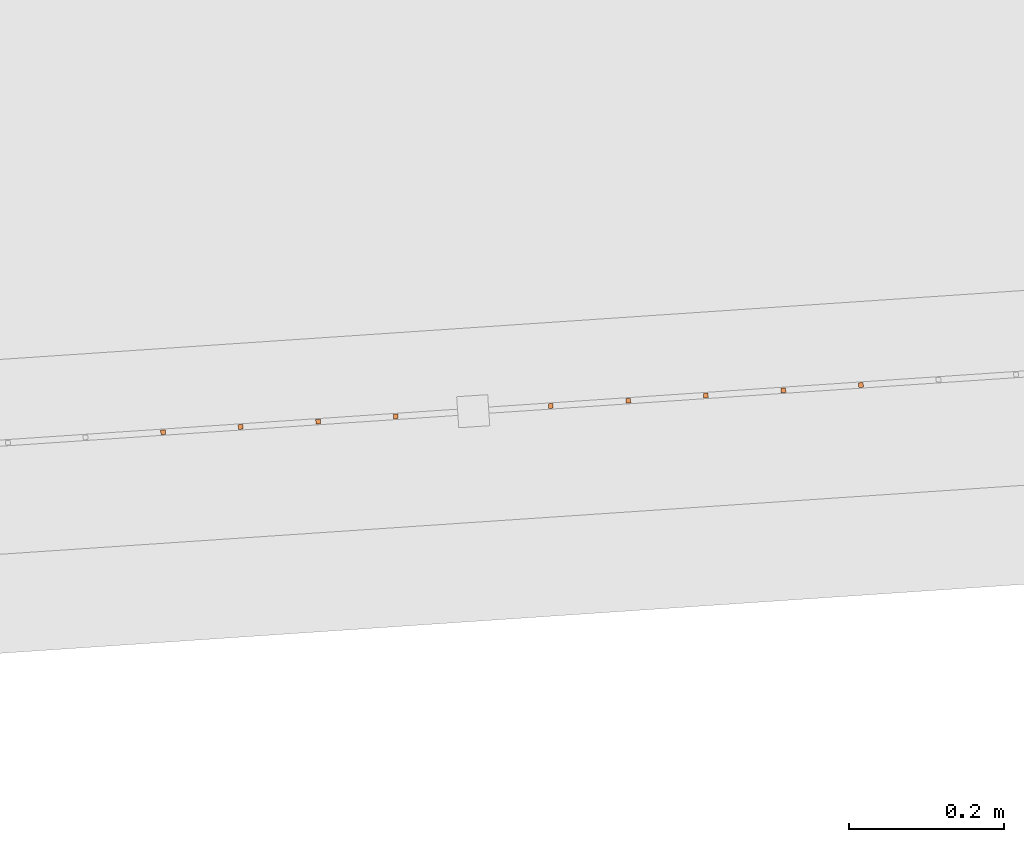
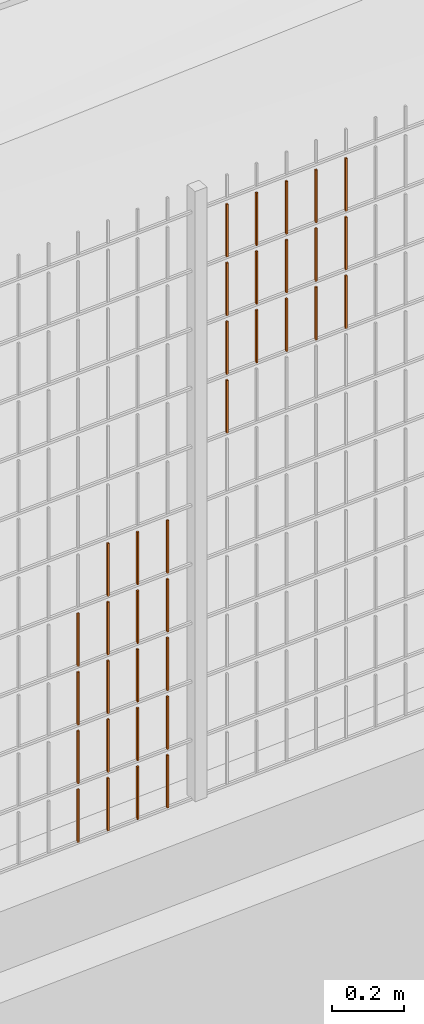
# One storey, part 299 of 1809: 35 proxies, 1 element without a shape of its own.
"""IFC2X3 building model written with IfcOpenShell, lengths in millimetres."""

from ifc_helpers import new_model, entity, si_unit, converted_unit, derived_unit, money_unit, direction, frame, origin_with_axes, place, context, subcontext, project, spatial, faceted_brep, source, transform, mapped, material, type_object, element, aggregate, save


model = new_model("IFC2X3")

# Units and contexts
model_context = context("Model", 3, precision=0.01, world=origin_with_axes(), true_north=direction((0.0, 1.0)))
body_context = subcontext(model_context, "Body", "Model", "MODEL_VIEW")
ifc_project = project(units=[si_unit("LENGTHUNIT", "METRE", prefix="MILLI"), si_unit("AREAUNIT", "SQUARE_METRE"), si_unit("VOLUMEUNIT", "CUBIC_METRE"), converted_unit("PLANEANGLEUNIT", "DEGREE", entity("IfcPlaneAngleMeasure", 0.0174532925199), si_unit("PLANEANGLEUNIT", "RADIAN"), dimensions=[0, 0, 0, 0, 0, 0, 0]), si_unit("SOLIDANGLEUNIT", "STERADIAN"), money_unit("EUR"), converted_unit("TIMEUNIT", "Year", entity("IfcTimeMeasure", 31556926.0), si_unit("TIMEUNIT", "SECOND"), dimensions=[0, 0, 1, 0, 0, 0, 0]), si_unit("MASSUNIT", "GRAM", prefix="KILO"), si_unit("THERMODYNAMICTEMPERATUREUNIT", "DEGREE_CELSIUS"), si_unit("LUMINOUSINTENSITYUNIT", "LUMEN"), si_unit("ENERGYUNIT", "JOULE", prefix="MEGA"), derived_unit("THERMALCONDUCTANCEUNIT", [(si_unit("POWERUNIT", "WATT"), 1), (si_unit("LENGTHUNIT", "METRE"), -1), (si_unit("THERMODYNAMICTEMPERATUREUNIT", "KELVIN"), -1)]), derived_unit("SPECIFICHEATCAPACITYUNIT", [(si_unit("ENERGYUNIT", "JOULE"), 1), (si_unit("MASSUNIT", "GRAM", prefix="KILO"), -1), (si_unit("THERMODYNAMICTEMPERATUREUNIT", "KELVIN"), -1)]), derived_unit("MASSDENSITYUNIT", [(si_unit("MASSUNIT", "GRAM", prefix="KILO"), 1), (si_unit("VOLUMEUNIT", "CUBIC_METRE"), -1)])], contexts=[model_context])

# Site, building, storey
site_placement = place(None, origin_with_axes())
site = spatial("IfcSite", under=ifc_project, at=site_placement, Name="Politse- ja Piirivalveameti ning Päästeameti ühishoone", CompositionType="ELEMENT")
building_placement = place(site_placement, origin_with_axes())
building = spatial("IfcBuilding", under=site, at=building_placement, Name="Politse- ja Piirivalveameti ning Päästeameti ühishoone", CompositionType="ELEMENT")
storey_placement = place(building_placement, origin_with_axes())
storey = spatial("IfcBuildingStorey", under=building, at=storey_placement, Name="Esimene korrus", CompositionType="ELEMENT", Elevation=0.0)

# Proxies
building_element_proxy_type_1 = type_object("IfcBuildingElementProxyType", Name="Railing Type", PredefinedType="NOTDEFINED")
proxy_1_placement = place(storey_placement, frame((89252.001212, -29183.4766571, 203.661247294), z_axis=(0.0, 0.0, 1.0), x_axis=(1.0, 0.0, 0.0)))
proxy_1 = element("IfcBuildingElementProxy", 1, at=proxy_1_placement, inside=storey, type_object=building_element_proxy_type_1, Name="PIIRDEAED")
ifc_material = material(Name="ET-03_Raud")
building_element_proxy_type_2 = type_object("IfcBuildingElementProxyType", Name="IfcBuildingElementProxy", PredefinedType="NOTDEFINED")
shared_shape_1 = source(origin_with_axes(), body_context, "Body", "Brep", [
    faceted_brep([(3.0, 3.0, -0.000752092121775), (-3.0, 3.0, -0.000752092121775), (-3.0, 3.0, 179.99926046), (3.0, 3.0, 179.99926046), (3.0, -3.0, 0.000752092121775), (-3.0, -3.0, 0.000752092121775), (-3.0, -3.0, 180.000764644), (3.0, -3.0, 180.000764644)], [[[0, 1, 2, 3]], [[0, 4, 5, 1]], [[1, 5, 6, 2]], [[3, 2, 6, 7]], [[4, 0, 3, 7]], [[5, 4, 7, 6]]]),
])
proxy_2_placement = place(proxy_1_placement, frame((-44924.3211557, -20332.2431174, 15.94631308), z_axis=(0.0, 0.0, 1.0), x_axis=(1.0, 0.0, 0.0)))
proxy_2 = element("IfcBuildingElementProxy", 2, at=proxy_2_placement, type_object=building_element_proxy_type_2, material=ifc_material, Name="BALUSTER - 001", context=body_context, shape_type="MappedRepresentation", body=[
    mapped(shared_shape_1, transform((0.0, 0.0, 0.0), x_axis=(-0.0673926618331, 0.997726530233, 0.0), y_axis=(-0.997726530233, -0.0673926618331, 0.0), z_axis=(0.0, 0.0, 1.0))),
])
shared_shape_2 = source(origin_with_axes(), body_context, "Body", "Brep", [
    faceted_brep([(3.0, 3.0, -0.000752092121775), (-3.0, 3.0, -0.000752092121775), (-3.0, 3.0, 179.99926046), (3.0, 3.0, 179.99926046), (3.0, -3.0, 0.000752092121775), (-3.0, -3.0, 0.000752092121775), (-3.0, -3.0, 180.000764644), (3.0, -3.0, 180.000764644)], [[[0, 1, 2, 3]], [[0, 4, 5, 1]], [[1, 5, 6, 2]], [[3, 2, 6, 7]], [[4, 0, 3, 7]], [[5, 4, 7, 6]]]),
])
proxy_3_placement = place(proxy_1_placement, frame((-44924.3211557, -20332.2431174, 215.94631308), z_axis=(0.0, 0.0, 1.0), x_axis=(1.0, 0.0, 0.0)))
proxy_3 = element("IfcBuildingElementProxy", 3, at=proxy_3_placement, type_object=building_element_proxy_type_2, material=ifc_material, Name="BALUSTER - 001", context=body_context, shape_type="MappedRepresentation", body=[
    mapped(shared_shape_2, transform((0.0, 0.0, 0.0), x_axis=(-0.0673926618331, 0.997726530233, 0.0), y_axis=(-0.997726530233, -0.0673926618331, 0.0), z_axis=(0.0, 0.0, 1.0))),
])
proxy_4_placement = place(proxy_1_placement, frame((-44924.3211557, -20332.2431174, 415.94631308), z_axis=(0.0, 0.0, 1.0), x_axis=(1.0, 0.0, 0.0)))
proxy_4 = element("IfcBuildingElementProxy", 4, at=proxy_4_placement, type_object=building_element_proxy_type_2, material=ifc_material, Name="BALUSTER - 001", context=body_context, shape_type="MappedRepresentation", body=[
    mapped(shared_shape_2, transform((0.0, 0.0, 0.0), x_axis=(-0.0673926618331, 0.997726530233, 0.0), y_axis=(-0.997726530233, -0.0673926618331, 0.0), z_axis=(0.0, 0.0, 1.0))),
])
shared_shape_3 = source(origin_with_axes(), body_context, "Body", "Brep", [
    faceted_brep([(3.0, 3.0, -0.000752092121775), (-3.0, 3.0, -0.000752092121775), (-3.0, 3.0, 179.99926046), (3.0, 3.0, 179.99926046), (3.0, -3.0, 0.000752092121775), (-3.0, -3.0, 0.000752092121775), (-3.0, -3.0, 180.000764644), (3.0, -3.0, 180.000764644)], [[[0, 1, 2, 3]], [[0, 4, 5, 1]], [[1, 5, 6, 2]], [[3, 2, 6, 7]], [[4, 0, 3, 7]], [[5, 4, 7, 6]]]),
])
proxy_5_placement = place(proxy_1_placement, frame((-44924.3211557, -20332.2431174, 615.94631308), z_axis=(0.0, 0.0, 1.0), x_axis=(1.0, 0.0, 0.0)))
proxy_5 = element("IfcBuildingElementProxy", 5, at=proxy_5_placement, type_object=building_element_proxy_type_2, material=ifc_material, Name="BALUSTER - 001", context=body_context, shape_type="MappedRepresentation", body=[
    mapped(shared_shape_3, transform((0.0, 0.0, 0.0), x_axis=(-0.0673926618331, 0.997726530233, 0.0), y_axis=(-0.997726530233, -0.0673926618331, 0.0), z_axis=(0.0, 0.0, 1.0))),
])
shared_shape_4 = source(origin_with_axes(), body_context, "Body", "Brep", [
    faceted_brep([(3.0, 3.0, -0.000752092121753), (-3.0, 3.0, -0.000752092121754), (-3.0, 3.0, 179.99926046), (3.0, 3.0, 179.99926046), (3.0, -3.0, 0.000752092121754), (-3.0, -3.0, 0.000752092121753), (-3.0, -3.0, 180.000764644), (3.0, -3.0, 180.000764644)], [[[0, 1, 2, 3]], [[0, 4, 5, 1]], [[1, 5, 6, 2]], [[3, 2, 6, 7]], [[4, 0, 3, 7]], [[5, 4, 7, 6]]]),
])
proxy_6_placement = place(proxy_1_placement, frame((-44225.9125845, -20285.0682541, 1816.12180124), z_axis=(0.0, 0.0, 1.0), x_axis=(1.0, 0.0, 0.0)))
proxy_6 = element("IfcBuildingElementProxy", 6, at=proxy_6_placement, type_object=building_element_proxy_type_2, material=ifc_material, Name="BALUSTER - 001", context=body_context, shape_type="MappedRepresentation", body=[
    mapped(shared_shape_4, transform((0.0, 0.0, 0.0), x_axis=(-0.0673926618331, 0.997726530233, 0.0), y_axis=(-0.997726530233, -0.0673926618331, 0.0), z_axis=(0.0, 0.0, 1.0))),
])
shared_shape_5 = source(origin_with_axes(), body_context, "Body", "Brep", [
    faceted_brep([(3.0, 3.0, -0.000752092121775), (-3.0, 3.0, -0.000752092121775), (-3.0, 3.0, 179.99926046), (3.0, 3.0, 179.99926046), (3.0, -3.0, 0.000752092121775), (-3.0, -3.0, 0.000752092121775), (-3.0, -3.0, 180.000764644), (3.0, -3.0, 180.000764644)], [[[0, 1, 2, 3]], [[0, 4, 5, 1]], [[1, 5, 6, 2]], [[3, 2, 6, 7]], [[4, 0, 3, 7]], [[5, 4, 7, 6]]]),
])
proxy_7_placement = place(proxy_1_placement, frame((-44924.3211557, -20332.2431174, 815.94631308), z_axis=(0.0, 0.0, 1.0), x_axis=(1.0, 0.0, 0.0)))
proxy_7 = element("IfcBuildingElementProxy", 7, at=proxy_7_placement, type_object=building_element_proxy_type_2, material=ifc_material, Name="BALUSTER - 001", context=body_context, shape_type="MappedRepresentation", body=[
    mapped(shared_shape_5, transform((0.0, 0.0, 0.0), x_axis=(-0.0673926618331, 0.997726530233, 0.0), y_axis=(-0.997726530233, -0.0673926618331, 0.0), z_axis=(0.0, 0.0, 1.0))),
])
shared_shape_6 = source(origin_with_axes(), body_context, "Body", "Brep", [
    faceted_brep([(3.0, 3.0, -0.000752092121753), (-3.0, 3.0, -0.000752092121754), (-3.0, 3.0, 179.99926046), (3.0, 3.0, 179.99926046), (3.0, -3.0, 0.000752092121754), (-3.0, -3.0, 0.000752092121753), (-3.0, -3.0, 180.000764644), (3.0, -3.0, 180.000764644)], [[[0, 1, 2, 3]], [[0, 4, 5, 1]], [[1, 5, 6, 2]], [[3, 2, 6, 7]], [[4, 0, 3, 7]], [[5, 4, 7, 6]]]),
])
proxy_8_placement = place(proxy_1_placement, frame((-44225.9125845, -20285.0682541, 1416.12180124), z_axis=(0.0, 0.0, 1.0), x_axis=(1.0, 0.0, 0.0)))
proxy_8 = element("IfcBuildingElementProxy", 8, at=proxy_8_placement, type_object=building_element_proxy_type_2, material=ifc_material, Name="BALUSTER - 001", context=body_context, shape_type="MappedRepresentation", body=[
    mapped(shared_shape_6, transform((0.0, 0.0, 0.0), x_axis=(-0.0673926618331, 0.997726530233, 0.0), y_axis=(-0.997726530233, -0.0673926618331, 0.0), z_axis=(0.0, 0.0, 1.0))),
])
proxy_9_placement = place(proxy_1_placement, frame((-44225.9125845, -20285.0682541, 1616.12180124), z_axis=(0.0, 0.0, 1.0), x_axis=(1.0, 0.0, 0.0)))
proxy_9 = element("IfcBuildingElementProxy", 9, at=proxy_9_placement, type_object=building_element_proxy_type_2, material=ifc_material, Name="BALUSTER - 001", context=body_context, shape_type="MappedRepresentation", body=[
    mapped(shared_shape_6, transform((0.0, 0.0, 0.0), x_axis=(-0.0673926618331, 0.997726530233, 0.0), y_axis=(-0.997726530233, -0.0673926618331, 0.0), z_axis=(0.0, 0.0, 1.0))),
])
shared_shape_7 = source(origin_with_axes(), body_context, "Body", "Brep", [
    faceted_brep([(3.0, 3.0, -0.000752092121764), (-3.0, 3.0, -0.000752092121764), (-3.0, 3.0, 179.99926046), (3.0, 3.0, 179.99926046), (3.0, -3.0, 0.000752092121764), (-3.0, -3.0, 0.000752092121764), (-3.0, -3.0, 180.000764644), (3.0, -3.0, 180.000764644)], [[[0, 1, 2, 3]], [[0, 4, 5, 1]], [[1, 5, 6, 2]], [[3, 2, 6, 7]], [[4, 0, 3, 7]], [[5, 4, 7, 6]]]),
])
proxy_10_placement = place(proxy_1_placement, frame((-44425.4578906, -20298.5467865, 1816.07166177), z_axis=(0.0, 0.0, 1.0), x_axis=(1.0, 0.0, 0.0)))
proxy_10 = element("IfcBuildingElementProxy", 10, at=proxy_10_placement, type_object=building_element_proxy_type_2, material=ifc_material, Name="BALUSTER - 001", context=body_context, shape_type="MappedRepresentation", body=[
    mapped(shared_shape_7, transform((0.0, 0.0, 0.0), x_axis=(-0.0673926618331, 0.997726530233, 0.0), y_axis=(-0.997726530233, -0.0673926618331, 0.0), z_axis=(0.0, 0.0, 1.0))),
])
shared_shape_8 = source(origin_with_axes(), body_context, "Body", "Brep", [
    faceted_brep([(3.0, 3.0, -0.000752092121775), (-3.0, 3.0, -0.000752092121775), (-3.0, 3.0, 179.99926046), (3.0, 3.0, 179.99926046), (3.0, -3.0, 0.000752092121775), (-3.0, -3.0, 0.000752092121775), (-3.0, -3.0, 180.000764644), (3.0, -3.0, 180.000764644)], [[[0, 1, 2, 3]], [[0, 4, 5, 1]], [[1, 5, 6, 2]], [[3, 2, 6, 7]], [[4, 0, 3, 7]], [[5, 4, 7, 6]]]),
])
proxy_11_placement = place(proxy_1_placement, frame((-44824.5485026, -20325.5038512, 15.9713828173), z_axis=(0.0, 0.0, 1.0), x_axis=(1.0, 0.0, 0.0)))
proxy_11 = element("IfcBuildingElementProxy", 11, at=proxy_11_placement, type_object=building_element_proxy_type_2, material=ifc_material, Name="BALUSTER - 001", context=body_context, shape_type="MappedRepresentation", body=[
    mapped(shared_shape_8, transform((0.0, 0.0, 0.0), x_axis=(-0.0673926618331, 0.997726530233, 0.0), y_axis=(-0.997726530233, -0.0673926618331, 0.0), z_axis=(0.0, 0.0, 1.0))),
])
shared_shape_9 = source(origin_with_axes(), body_context, "Body", "Brep", [
    faceted_brep([(3.0, 3.0, -0.000752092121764), (-3.0, 3.0, -0.000752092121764), (-3.0, 3.0, 179.99926046), (3.0, 3.0, 179.99926046), (3.0, -3.0, 0.000752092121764), (-3.0, -3.0, 0.000752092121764), (-3.0, -3.0, 180.000764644), (3.0, -3.0, 180.000764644)], [[[0, 1, 2, 3]], [[0, 4, 5, 1]], [[1, 5, 6, 2]], [[3, 2, 6, 7]], [[4, 0, 3, 7]], [[5, 4, 7, 6]]]),
])
proxy_12_placement = place(proxy_1_placement, frame((-44425.4578906, -20298.5467865, 1416.07166177), z_axis=(0.0, 0.0, 1.0), x_axis=(1.0, 0.0, 0.0)))
proxy_12 = element("IfcBuildingElementProxy", 12, at=proxy_12_placement, type_object=building_element_proxy_type_2, material=ifc_material, Name="BALUSTER - 001", context=body_context, shape_type="MappedRepresentation", body=[
    mapped(shared_shape_9, transform((0.0, 0.0, 0.0), x_axis=(-0.0673926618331, 0.997726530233, 0.0), y_axis=(-0.997726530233, -0.0673926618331, 0.0), z_axis=(0.0, 0.0, 1.0))),
])
proxy_13_placement = place(proxy_1_placement, frame((-44425.4578906, -20298.5467865, 1616.07166177), z_axis=(0.0, 0.0, 1.0), x_axis=(1.0, 0.0, 0.0)))
proxy_13 = element("IfcBuildingElementProxy", 13, at=proxy_13_placement, type_object=building_element_proxy_type_2, material=ifc_material, Name="BALUSTER - 001", context=body_context, shape_type="MappedRepresentation", body=[
    mapped(shared_shape_9, transform((0.0, 0.0, 0.0), x_axis=(-0.0673926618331, 0.997726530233, 0.0), y_axis=(-0.997726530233, -0.0673926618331, 0.0), z_axis=(0.0, 0.0, 1.0))),
])
shared_shape_10 = source(origin_with_axes(), body_context, "Body", "Brep", [
    faceted_brep([(3.0, 3.0, -0.000752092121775), (-3.0, 3.0, -0.000752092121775), (-3.0, 3.0, 179.99926046), (3.0, 3.0, 179.99926046), (3.0, -3.0, 0.000752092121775), (-3.0, -3.0, 0.000752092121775), (-3.0, -3.0, 180.000764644), (3.0, -3.0, 180.000764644)], [[[0, 1, 2, 3]], [[0, 4, 5, 1]], [[1, 5, 6, 2]], [[3, 2, 6, 7]], [[4, 0, 3, 7]], [[5, 4, 7, 6]]]),
])
proxy_14_placement = place(proxy_1_placement, frame((-44824.5485026, -20325.5038512, 215.971382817), z_axis=(0.0, 0.0, 1.0), x_axis=(1.0, 0.0, 0.0)))
proxy_14 = element("IfcBuildingElementProxy", 14, at=proxy_14_placement, type_object=building_element_proxy_type_2, material=ifc_material, Name="BALUSTER - 001", context=body_context, shape_type="MappedRepresentation", body=[
    mapped(shared_shape_10, transform((0.0, 0.0, 0.0), x_axis=(-0.0673926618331, 0.997726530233, 0.0), y_axis=(-0.997726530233, -0.0673926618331, 0.0), z_axis=(0.0, 0.0, 1.0))),
])
shared_shape_11 = source(origin_with_axes(), body_context, "Body", "Brep", [
    faceted_brep([(3.0, 3.0, -0.000752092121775), (-3.0, 3.0, -0.000752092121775), (-3.0, 3.0, 179.99926046), (3.0, 3.0, 179.99926046), (3.0, -3.0, 0.000752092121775), (-3.0, -3.0, 0.000752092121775), (-3.0, -3.0, 180.000764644), (3.0, -3.0, 180.000764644)], [[[0, 1, 2, 3]], [[0, 4, 5, 1]], [[1, 5, 6, 2]], [[3, 2, 6, 7]], [[4, 0, 3, 7]], [[5, 4, 7, 6]]]),
])
proxy_15_placement = place(proxy_1_placement, frame((-44824.5485026, -20325.5038512, 415.971382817), z_axis=(0.0, 0.0, 1.0), x_axis=(1.0, 0.0, 0.0)))
proxy_15 = element("IfcBuildingElementProxy", 15, at=proxy_15_placement, type_object=building_element_proxy_type_2, material=ifc_material, Name="BALUSTER - 001", context=body_context, shape_type="MappedRepresentation", body=[
    mapped(shared_shape_11, transform((0.0, 0.0, 0.0), x_axis=(-0.0673926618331, 0.997726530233, 0.0), y_axis=(-0.997726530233, -0.0673926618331, 0.0), z_axis=(0.0, 0.0, 1.0))),
])
shared_shape_12 = source(origin_with_axes(), body_context, "Body", "Brep", [
    faceted_brep([(3.0, 3.0, -0.000752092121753), (-3.0, 3.0, -0.000752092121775), (-3.0, 3.0, 179.99926046), (3.0, 3.0, 179.99926046), (3.0, -3.0, 0.000752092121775), (-3.0, -3.0, 0.000752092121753), (-3.0, -3.0, 180.000764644), (3.0, -3.0, 180.000764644)], [[[0, 1, 2, 3]], [[0, 4, 5, 1]], [[1, 5, 6, 2]], [[3, 2, 6, 7]], [[4, 0, 3, 7]], [[5, 4, 7, 6]]]),
])
proxy_16_placement = place(proxy_1_placement, frame((-44525.2305436, -20305.2860527, 1816.04659203), z_axis=(0.0, 0.0, 1.0), x_axis=(1.0, 0.0, 0.0)))
proxy_16 = element("IfcBuildingElementProxy", 16, at=proxy_16_placement, type_object=building_element_proxy_type_2, material=ifc_material, Name="BALUSTER - 001", context=body_context, shape_type="MappedRepresentation", body=[
    mapped(shared_shape_12, transform((0.0, 0.0, 0.0), x_axis=(-0.0673926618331, 0.997726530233, 0.0), y_axis=(-0.997726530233, -0.0673926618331, 0.0), z_axis=(0.0, 0.0, 1.0))),
])
shared_shape_13 = source(origin_with_axes(), body_context, "Body", "Brep", [
    faceted_brep([(3.0, 3.0, -0.000752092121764), (-3.0, 3.0, -0.000752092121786), (-3.0, 3.0, 179.99926046), (3.0, 3.0, 179.99926046), (3.0, -3.0, 0.000752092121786), (-3.0, -3.0, 0.000752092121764), (-3.0, -3.0, 180.000764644), (3.0, -3.0, 180.000764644)], [[[0, 1, 2, 3]], [[0, 4, 5, 1]], [[1, 5, 6, 2]], [[3, 2, 6, 7]], [[4, 0, 3, 7]], [[5, 4, 7, 6]]]),
])
proxy_17_placement = place(proxy_1_placement, frame((-44625.0031966, -20312.0253189, 1816.02152229), z_axis=(0.0, 0.0, 1.0), x_axis=(1.0, 0.0, 0.0)))
proxy_17 = element("IfcBuildingElementProxy", 17, at=proxy_17_placement, type_object=building_element_proxy_type_2, material=ifc_material, Name="BALUSTER - 001", context=body_context, shape_type="MappedRepresentation", body=[
    mapped(shared_shape_13, transform((0.0, 0.0, 0.0), x_axis=(-0.0673926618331, 0.997726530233, 0.0), y_axis=(-0.997726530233, -0.0673926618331, 0.0), z_axis=(0.0, 0.0, 1.0))),
])
shared_shape_14 = source(origin_with_axes(), body_context, "Body", "Brep", [
    faceted_brep([(3.0, 3.0, -0.000752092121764), (-3.0, 3.0, -0.000752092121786), (-3.0, 3.0, 179.99926046), (3.0, 3.0, 179.99926046), (3.0, -3.0, 0.000752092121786), (-3.0, -3.0, 0.000752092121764), (-3.0, -3.0, 180.000764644), (3.0, -3.0, 180.000764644)], [[[0, 1, 2, 3]], [[0, 4, 5, 1]], [[1, 5, 6, 2]], [[3, 2, 6, 7]], [[4, 0, 3, 7]], [[5, 4, 7, 6]]]),
])
proxy_18_placement = place(proxy_1_placement, frame((-44625.0031966, -20312.0253189, 1216.02152229), z_axis=(0.0, 0.0, 1.0), x_axis=(1.0, 0.0, 0.0)))
proxy_18 = element("IfcBuildingElementProxy", 18, at=proxy_18_placement, type_object=building_element_proxy_type_2, material=ifc_material, Name="BALUSTER - 001", context=body_context, shape_type="MappedRepresentation", body=[
    mapped(shared_shape_14, transform((0.0, 0.0, 0.0), x_axis=(-0.0673926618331, 0.997726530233, 0.0), y_axis=(-0.997726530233, -0.0673926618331, 0.0), z_axis=(0.0, 0.0, 1.0))),
])
shared_shape_15 = source(origin_with_axes(), body_context, "Body", "Brep", [
    faceted_brep([(3.0, 3.0, -0.000752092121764), (-3.0, 3.0, -0.000752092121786), (-3.0, 3.0, 179.99926046), (3.0, 3.0, 179.99926046), (3.0, -3.0, 0.000752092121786), (-3.0, -3.0, 0.000752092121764), (-3.0, -3.0, 180.000764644), (3.0, -3.0, 180.000764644)], [[[0, 1, 2, 3]], [[0, 4, 5, 1]], [[1, 5, 6, 2]], [[3, 2, 6, 7]], [[4, 0, 3, 7]], [[5, 4, 7, 6]]]),
])
proxy_19_placement = place(proxy_1_placement, frame((-44625.0031966, -20312.0253189, 1416.02152229), z_axis=(0.0, 0.0, 1.0), x_axis=(1.0, 0.0, 0.0)))
proxy_19 = element("IfcBuildingElementProxy", 19, at=proxy_19_placement, type_object=building_element_proxy_type_2, material=ifc_material, Name="BALUSTER - 001", context=body_context, shape_type="MappedRepresentation", body=[
    mapped(shared_shape_15, transform((0.0, 0.0, 0.0), x_axis=(-0.0673926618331, 0.997726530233, 0.0), y_axis=(-0.997726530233, -0.0673926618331, 0.0), z_axis=(0.0, 0.0, 1.0))),
])
proxy_20_placement = place(proxy_1_placement, frame((-44625.0031966, -20312.0253189, 1616.02152229), z_axis=(0.0, 0.0, 1.0), x_axis=(1.0, 0.0, 0.0)))
proxy_20 = element("IfcBuildingElementProxy", 20, at=proxy_20_placement, type_object=building_element_proxy_type_2, material=ifc_material, Name="BALUSTER - 001", context=body_context, shape_type="MappedRepresentation", body=[
    mapped(shared_shape_15, transform((0.0, 0.0, 0.0), x_axis=(-0.0673926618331, 0.997726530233, 0.0), y_axis=(-0.997726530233, -0.0673926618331, 0.0), z_axis=(0.0, 0.0, 1.0))),
])
shared_shape_16 = source(origin_with_axes(), body_context, "Body", "Brep", [
    faceted_brep([(3.0, 3.0, -0.000752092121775), (-3.0, 3.0, -0.000752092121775), (-3.0, 3.0, 179.99926046), (3.0, 3.0, 179.99926046), (3.0, -3.0, 0.000752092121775), (-3.0, -3.0, 0.000752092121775), (-3.0, -3.0, 180.000764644), (3.0, -3.0, 180.000764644)], [[[0, 1, 2, 3]], [[0, 4, 5, 1]], [[1, 5, 6, 2]], [[3, 2, 6, 7]], [[4, 0, 3, 7]], [[5, 4, 7, 6]]]),
])
proxy_21_placement = place(proxy_1_placement, frame((-44824.5485026, -20325.5038512, 815.971382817), z_axis=(0.0, 0.0, 1.0), x_axis=(1.0, 0.0, 0.0)))
proxy_21 = element("IfcBuildingElementProxy", 21, at=proxy_21_placement, type_object=building_element_proxy_type_2, material=ifc_material, Name="BALUSTER - 001", context=body_context, shape_type="MappedRepresentation", body=[
    mapped(shared_shape_16, transform((0.0, 0.0, 0.0), x_axis=(-0.0673926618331, 0.997726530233, 0.0), y_axis=(-0.997726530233, -0.0673926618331, 0.0), z_axis=(0.0, 0.0, 1.0))),
])
shared_shape_17 = source(origin_with_axes(), body_context, "Body", "Brep", [
    faceted_brep([(3.0, 3.0, -0.000752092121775), (-3.0, 3.0, -0.000752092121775), (-3.0, 3.0, 179.99926046), (3.0, 3.0, 179.99926046), (3.0, -3.0, 0.000752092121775), (-3.0, -3.0, 0.000752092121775), (-3.0, -3.0, 180.000764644), (3.0, -3.0, 180.000764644)], [[[0, 1, 2, 3]], [[0, 4, 5, 1]], [[1, 5, 6, 2]], [[3, 2, 6, 7]], [[4, 0, 3, 7]], [[5, 4, 7, 6]]]),
])
proxy_22_placement = place(proxy_1_placement, frame((-44824.5485026, -20325.5038512, 615.971382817), z_axis=(0.0, 0.0, 1.0), x_axis=(1.0, 0.0, 0.0)))
proxy_22 = element("IfcBuildingElementProxy", 22, at=proxy_22_placement, type_object=building_element_proxy_type_2, material=ifc_material, Name="BALUSTER - 001", context=body_context, shape_type="MappedRepresentation", body=[
    mapped(shared_shape_17, transform((0.0, 0.0, 0.0), x_axis=(-0.0673926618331, 0.997726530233, 0.0), y_axis=(-0.997726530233, -0.0673926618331, 0.0), z_axis=(0.0, 0.0, 1.0))),
])
shared_shape_18 = source(origin_with_axes(), body_context, "Body", "Brep", [
    faceted_brep([(3.0, 3.0, -0.000752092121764), (-3.0, 3.0, -0.000752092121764), (-3.0, 3.0, 179.99926046), (3.0, 3.0, 179.99926046), (3.0, -3.0, 0.000752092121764), (-3.0, -3.0, 0.000752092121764), (-3.0, -3.0, 180.000764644), (3.0, -3.0, 180.000764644)], [[[0, 1, 2, 3]], [[0, 4, 5, 1]], [[1, 5, 6, 2]], [[3, 2, 6, 7]], [[4, 0, 3, 7]], [[5, 4, 7, 6]]]),
])
proxy_23_placement = place(proxy_1_placement, frame((-45123.8664617, -20345.7216498, 15.8961736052), z_axis=(0.0, 0.0, 1.0), x_axis=(1.0, 0.0, 0.0)))
proxy_23 = element("IfcBuildingElementProxy", 23, at=proxy_23_placement, type_object=building_element_proxy_type_2, material=ifc_material, Name="BALUSTER - 001", context=body_context, shape_type="MappedRepresentation", body=[
    mapped(shared_shape_18, transform((0.0, 0.0, 0.0), x_axis=(-0.0673926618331, 0.997726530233, 0.0), y_axis=(-0.997726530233, -0.0673926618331, 0.0), z_axis=(0.0, 0.0, 1.0))),
])
shared_shape_19 = source(origin_with_axes(), body_context, "Body", "Brep", [
    faceted_brep([(3.0, 3.0, -0.000752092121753), (-3.0, 3.0, -0.000752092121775), (-3.0, 3.0, 179.99926046), (3.0, 3.0, 179.99926046), (3.0, -3.0, 0.000752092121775), (-3.0, -3.0, 0.000752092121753), (-3.0, -3.0, 180.000764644), (3.0, -3.0, 180.000764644)], [[[0, 1, 2, 3]], [[0, 4, 5, 1]], [[1, 5, 6, 2]], [[3, 2, 6, 7]], [[4, 0, 3, 7]], [[5, 4, 7, 6]]]),
])
proxy_24_placement = place(proxy_1_placement, frame((-45024.0938087, -20338.9823836, 415.921243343), z_axis=(0.0, 0.0, 1.0), x_axis=(1.0, 0.0, 0.0)))
proxy_24 = element("IfcBuildingElementProxy", 24, at=proxy_24_placement, type_object=building_element_proxy_type_2, material=ifc_material, Name="BALUSTER - 001", context=body_context, shape_type="MappedRepresentation", body=[
    mapped(shared_shape_19, transform((0.0, 0.0, 0.0), x_axis=(-0.0673926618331, 0.997726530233, 0.0), y_axis=(-0.997726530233, -0.0673926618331, 0.0), z_axis=(0.0, 0.0, 1.0))),
])
proxy_25_placement = place(proxy_1_placement, frame((-45024.0938087, -20338.9823836, 615.921243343), z_axis=(0.0, 0.0, 1.0), x_axis=(1.0, 0.0, 0.0)))
proxy_25 = element("IfcBuildingElementProxy", 25, at=proxy_25_placement, type_object=building_element_proxy_type_2, material=ifc_material, Name="BALUSTER - 001", context=body_context, shape_type="MappedRepresentation", body=[
    mapped(shared_shape_19, transform((0.0, 0.0, 0.0), x_axis=(-0.0673926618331, 0.997726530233, 0.0), y_axis=(-0.997726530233, -0.0673926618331, 0.0), z_axis=(0.0, 0.0, 1.0))),
])
shared_shape_20 = source(origin_with_axes(), body_context, "Body", "Brep", [
    faceted_brep([(3.0, 3.0, -0.000752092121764), (-3.0, 3.0, -0.000752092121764), (-3.0, 3.0, 179.99926046), (3.0, 3.0, 179.99926046), (3.0, -3.0, 0.000752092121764), (-3.0, -3.0, 0.000752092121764), (-3.0, -3.0, 180.000764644), (3.0, -3.0, 180.000764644)], [[[0, 1, 2, 3]], [[0, 4, 5, 1]], [[1, 5, 6, 2]], [[3, 2, 6, 7]], [[4, 0, 3, 7]], [[5, 4, 7, 6]]]),
])
proxy_26_placement = place(proxy_1_placement, frame((-45123.8664617, -20345.7216498, 215.896173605), z_axis=(0.0, 0.0, 1.0), x_axis=(1.0, 0.0, 0.0)))
proxy_26 = element("IfcBuildingElementProxy", 26, at=proxy_26_placement, type_object=building_element_proxy_type_2, material=ifc_material, Name="BALUSTER - 001", context=body_context, shape_type="MappedRepresentation", body=[
    mapped(shared_shape_20, transform((0.0, 0.0, 0.0), x_axis=(-0.0673926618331, 0.997726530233, 0.0), y_axis=(-0.997726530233, -0.0673926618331, 0.0), z_axis=(0.0, 0.0, 1.0))),
])
proxy_27_placement = place(proxy_1_placement, frame((-45123.8664617, -20345.7216498, 415.896173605), z_axis=(0.0, 0.0, 1.0), x_axis=(1.0, 0.0, 0.0)))
proxy_27 = element("IfcBuildingElementProxy", 27, at=proxy_27_placement, type_object=building_element_proxy_type_2, material=ifc_material, Name="BALUSTER - 001", context=body_context, shape_type="MappedRepresentation", body=[
    mapped(shared_shape_20, transform((0.0, 0.0, 0.0), x_axis=(-0.0673926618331, 0.997726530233, 0.0), y_axis=(-0.997726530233, -0.0673926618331, 0.0), z_axis=(0.0, 0.0, 1.0))),
])
proxy_28_placement = place(proxy_1_placement, frame((-45123.8664617, -20345.7216498, 615.896173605), z_axis=(0.0, 0.0, 1.0), x_axis=(1.0, 0.0, 0.0)))
proxy_28 = element("IfcBuildingElementProxy", 28, at=proxy_28_placement, type_object=building_element_proxy_type_2, material=ifc_material, Name="BALUSTER - 001", context=body_context, shape_type="MappedRepresentation", body=[
    mapped(shared_shape_20, transform((0.0, 0.0, 0.0), x_axis=(-0.0673926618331, 0.997726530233, 0.0), y_axis=(-0.997726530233, -0.0673926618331, 0.0), z_axis=(0.0, 0.0, 1.0))),
])
shared_shape_21 = source(origin_with_axes(), body_context, "Body", "Brep", [
    faceted_brep([(3.0, 3.0, -0.000752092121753), (-3.0, 3.0, -0.000752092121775), (-3.0, 3.0, 179.99926046), (3.0, 3.0, 179.99926046), (3.0, -3.0, 0.000752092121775), (-3.0, -3.0, 0.000752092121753), (-3.0, -3.0, 180.000764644), (3.0, -3.0, 180.000764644)], [[[0, 1, 2, 3]], [[0, 4, 5, 1]], [[1, 5, 6, 2]], [[3, 2, 6, 7]], [[4, 0, 3, 7]], [[5, 4, 7, 6]]]),
])
proxy_29_placement = place(proxy_1_placement, frame((-45024.0938087, -20338.9823836, 815.921243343), z_axis=(0.0, 0.0, 1.0), x_axis=(1.0, 0.0, 0.0)))
proxy_29 = element("IfcBuildingElementProxy", 29, at=proxy_29_placement, type_object=building_element_proxy_type_2, material=ifc_material, Name="BALUSTER - 001", context=body_context, shape_type="MappedRepresentation", body=[
    mapped(shared_shape_21, transform((0.0, 0.0, 0.0), x_axis=(-0.0673926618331, 0.997726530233, 0.0), y_axis=(-0.997726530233, -0.0673926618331, 0.0), z_axis=(0.0, 0.0, 1.0))),
])
shared_shape_22 = source(origin_with_axes(), body_context, "Body", "Brep", [
    faceted_brep([(3.0, 3.0, -0.000752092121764), (-3.0, 3.0, -0.000752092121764), (-3.0, 3.0, 179.99926046), (3.0, 3.0, 179.99926046), (3.0, -3.0, 0.000752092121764), (-3.0, -3.0, 0.000752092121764), (-3.0, -3.0, 180.000764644), (3.0, -3.0, 180.000764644)], [[[0, 1, 2, 3]], [[0, 4, 5, 1]], [[1, 5, 6, 2]], [[3, 2, 6, 7]], [[4, 0, 3, 7]], [[5, 4, 7, 6]]]),
])
proxy_30_placement = place(proxy_1_placement, frame((-44325.6852375, -20291.8075203, 1816.0967315), z_axis=(0.0, 0.0, 1.0), x_axis=(1.0, 0.0, 0.0)))
proxy_30 = element("IfcBuildingElementProxy", 30, at=proxy_30_placement, type_object=building_element_proxy_type_2, material=ifc_material, Name="BALUSTER - 001", context=body_context, shape_type="MappedRepresentation", body=[
    mapped(shared_shape_22, transform((0.0, 0.0, 0.0), x_axis=(-0.0673926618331, 0.997726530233, 0.0), y_axis=(-0.997726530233, -0.0673926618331, 0.0), z_axis=(0.0, 0.0, 1.0))),
])
shared_shape_23 = source(origin_with_axes(), body_context, "Body", "Brep", [
    faceted_brep([(3.0, 3.0, -0.000752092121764), (-3.0, 3.0, -0.000752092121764), (-3.0, 3.0, 179.99926046), (3.0, 3.0, 179.99926046), (3.0, -3.0, 0.000752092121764), (-3.0, -3.0, 0.000752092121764), (-3.0, -3.0, 180.000764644), (3.0, -3.0, 180.000764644)], [[[0, 1, 2, 3]], [[0, 4, 5, 1]], [[1, 5, 6, 2]], [[3, 2, 6, 7]], [[4, 0, 3, 7]], [[5, 4, 7, 6]]]),
])
proxy_31_placement = place(proxy_1_placement, frame((-44325.6852375, -20291.8075203, 1416.0967315), z_axis=(0.0, 0.0, 1.0), x_axis=(1.0, 0.0, 0.0)))
proxy_31 = element("IfcBuildingElementProxy", 31, at=proxy_31_placement, type_object=building_element_proxy_type_2, material=ifc_material, Name="BALUSTER - 001", context=body_context, shape_type="MappedRepresentation", body=[
    mapped(shared_shape_23, transform((0.0, 0.0, 0.0), x_axis=(-0.0673926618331, 0.997726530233, 0.0), y_axis=(-0.997726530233, -0.0673926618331, 0.0), z_axis=(0.0, 0.0, 1.0))),
])
proxy_32_placement = place(proxy_1_placement, frame((-44325.6852375, -20291.8075203, 1616.0967315), z_axis=(0.0, 0.0, 1.0), x_axis=(1.0, 0.0, 0.0)))
proxy_32 = element("IfcBuildingElementProxy", 32, at=proxy_32_placement, type_object=building_element_proxy_type_2, material=ifc_material, Name="BALUSTER - 001", context=body_context, shape_type="MappedRepresentation", body=[
    mapped(shared_shape_23, transform((0.0, 0.0, 0.0), x_axis=(-0.0673926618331, 0.997726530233, 0.0), y_axis=(-0.997726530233, -0.0673926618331, 0.0), z_axis=(0.0, 0.0, 1.0))),
])
shared_shape_24 = source(origin_with_axes(), body_context, "Body", "Brep", [
    faceted_brep([(3.0, 3.0, -0.000752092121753), (-3.0, 3.0, -0.000752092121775), (-3.0, 3.0, 179.99926046), (3.0, 3.0, 179.99926046), (3.0, -3.0, 0.000752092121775), (-3.0, -3.0, 0.000752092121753), (-3.0, -3.0, 180.000764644), (3.0, -3.0, 180.000764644)], [[[0, 1, 2, 3]], [[0, 4, 5, 1]], [[1, 5, 6, 2]], [[3, 2, 6, 7]], [[4, 0, 3, 7]], [[5, 4, 7, 6]]]),
])
proxy_33_placement = place(proxy_1_placement, frame((-45024.0938087, -20338.9823836, 15.9212433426), z_axis=(0.0, 0.0, 1.0), x_axis=(1.0, 0.0, 0.0)))
proxy_33 = element("IfcBuildingElementProxy", 33, at=proxy_33_placement, type_object=building_element_proxy_type_2, material=ifc_material, Name="BALUSTER - 001", context=body_context, shape_type="MappedRepresentation", body=[
    mapped(shared_shape_24, transform((0.0, 0.0, 0.0), x_axis=(-0.0673926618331, 0.997726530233, 0.0), y_axis=(-0.997726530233, -0.0673926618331, 0.0), z_axis=(0.0, 0.0, 1.0))),
])
shared_shape_25 = source(origin_with_axes(), body_context, "Body", "Brep", [
    faceted_brep([(3.0, 3.0, -0.000752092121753), (-3.0, 3.0, -0.000752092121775), (-3.0, 3.0, 179.99926046), (3.0, 3.0, 179.99926046), (3.0, -3.0, 0.000752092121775), (-3.0, -3.0, 0.000752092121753), (-3.0, -3.0, 180.000764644), (3.0, -3.0, 180.000764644)], [[[0, 1, 2, 3]], [[0, 4, 5, 1]], [[1, 5, 6, 2]], [[3, 2, 6, 7]], [[4, 0, 3, 7]], [[5, 4, 7, 6]]]),
])
proxy_34_placement = place(proxy_1_placement, frame((-45024.0938087, -20338.9823836, 215.921243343), z_axis=(0.0, 0.0, 1.0), x_axis=(1.0, 0.0, 0.0)))
proxy_34 = element("IfcBuildingElementProxy", 34, at=proxy_34_placement, type_object=building_element_proxy_type_2, material=ifc_material, Name="BALUSTER - 001", context=body_context, shape_type="MappedRepresentation", body=[
    mapped(shared_shape_25, transform((0.0, 0.0, 0.0), x_axis=(-0.0673926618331, 0.997726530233, 0.0), y_axis=(-0.997726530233, -0.0673926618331, 0.0), z_axis=(0.0, 0.0, 1.0))),
])
shared_shape_26 = source(origin_with_axes(), body_context, "Body", "Brep", [
    faceted_brep([(3.0, 3.0, -0.000752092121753), (-3.0, 3.0, -0.000752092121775), (-3.0, 3.0, 179.99926046), (3.0, 3.0, 179.99926046), (3.0, -3.0, 0.000752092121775), (-3.0, -3.0, 0.000752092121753), (-3.0, -3.0, 180.000764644), (3.0, -3.0, 180.000764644)], [[[0, 1, 2, 3]], [[0, 4, 5, 1]], [[1, 5, 6, 2]], [[3, 2, 6, 7]], [[4, 0, 3, 7]], [[5, 4, 7, 6]]]),
])
proxy_35_placement = place(proxy_1_placement, frame((-44525.2305436, -20305.2860527, 1416.04659203), z_axis=(0.0, 0.0, 1.0), x_axis=(1.0, 0.0, 0.0)))
proxy_35 = element("IfcBuildingElementProxy", 35, at=proxy_35_placement, type_object=building_element_proxy_type_2, material=ifc_material, Name="BALUSTER - 001", context=body_context, shape_type="MappedRepresentation", body=[
    mapped(shared_shape_26, transform((0.0, 0.0, 0.0), x_axis=(-0.0673926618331, 0.997726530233, 0.0), y_axis=(-0.997726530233, -0.0673926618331, 0.0), z_axis=(0.0, 0.0, 1.0))),
])
proxy_36_placement = place(proxy_1_placement, frame((-44525.2305436, -20305.2860527, 1616.04659203), z_axis=(0.0, 0.0, 1.0), x_axis=(1.0, 0.0, 0.0)))
proxy_36 = element("IfcBuildingElementProxy", 36, at=proxy_36_placement, type_object=building_element_proxy_type_2, material=ifc_material, Name="BALUSTER - 001", context=body_context, shape_type="MappedRepresentation", body=[
    mapped(shared_shape_26, transform((0.0, 0.0, 0.0), x_axis=(-0.0673926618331, 0.997726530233, 0.0), y_axis=(-0.997726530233, -0.0673926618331, 0.0), z_axis=(0.0, 0.0, 1.0))),
])
aggregate(proxy_1, [proxy_18, proxy_8, proxy_31, proxy_12, proxy_35, proxy_19, proxy_9, proxy_32, proxy_13, proxy_36, proxy_20, proxy_6, proxy_30, proxy_10, proxy_16, proxy_17, proxy_11, proxy_2, proxy_33, proxy_23, proxy_14, proxy_3, proxy_34, proxy_26, proxy_15, proxy_4, proxy_24, proxy_27, proxy_22, proxy_5, proxy_25, proxy_28, proxy_21, proxy_7, proxy_29])

save(model, "model.ifc")
